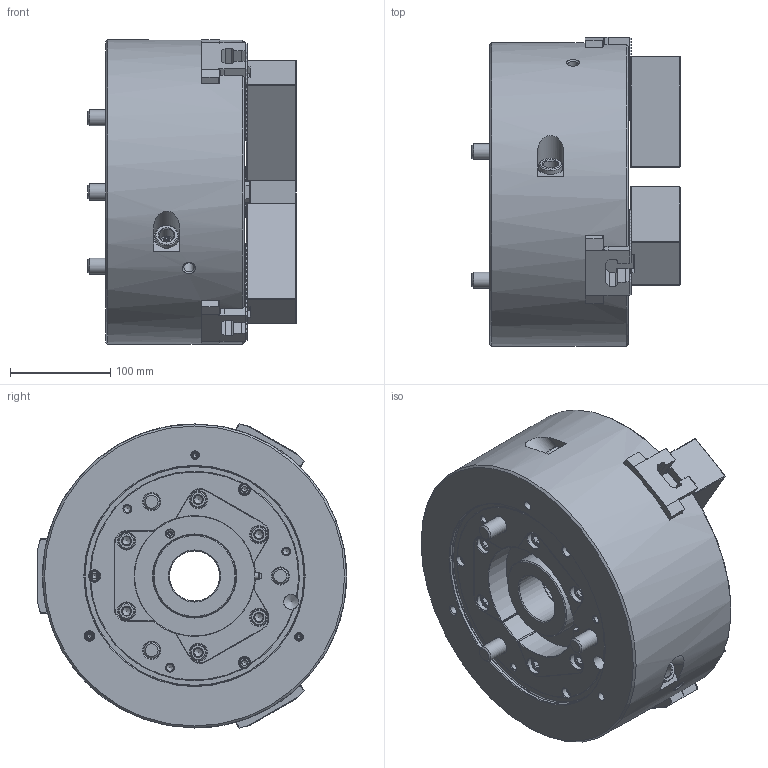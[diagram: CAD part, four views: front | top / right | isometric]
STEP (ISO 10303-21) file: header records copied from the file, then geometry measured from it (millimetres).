
FILE_DESCRIPTION (( 'STEP AP214' ), '1' );
FILE_NAME ('DT1_BL-212_OUTSIDE_VIEW_UC.STEP', '2024-05-08T02:28:40', ( '' ), ( '' ), 'SwSTEP 2.0', 'SolidWorks 2022', '' );
FILE_SCHEMA (( 'AUTOMOTIVE_DESIGN' ));
Length unit declared in the file: millimetre
Products named in the file (9): DT1_B-212_SOFTJAW^DT1_BL-212_ﾃﾞﾌｫﾙﾄ; DT1_BL-212_OUTSIDE_VIEW_UC; DT1_B-212_DRAWNUT^DT1_BL-212_ﾃﾞﾌｫﾙﾄ; DT1_B-212_TNUT^DT1_BL-212_ﾃﾞﾌｫﾙﾄ; DT1_B-212_M5x10^DT1_BL-212_ﾃﾞﾌｫﾙﾄ; DT1_B-212_COVER^DT1_BL-212_ﾃﾞﾌｫﾙﾄ; DT1_B-212_M16x40^DT1_BL-212_ﾃﾞﾌｫﾙﾄ; BASE^DT1_BL-212_ﾃﾞﾌｫﾙﾄ; DT1_B-212_M16x130^DT1_BL-212_ﾃﾞﾌｫﾙﾄ
Assembly tree (21 placements, depth 2):
  DT1_BL-212_OUTSIDE_VIEW_UC
    DT1_B-212_DRAWNUT^DT1_BL-212_ﾃﾞﾌｫﾙﾄ
    DT1_B-212_COVER^DT1_BL-212_ﾃﾞﾌｫﾙﾄ
    DT1_B-212_TNUT^DT1_BL-212_ﾃﾞﾌｫﾙﾄ  x3
    DT1_B-212_SOFTJAW^DT1_BL-212_ﾃﾞﾌｫﾙﾄ  x3
    BASE^DT1_BL-212_ﾃﾞﾌｫﾙﾄ
    DT1_B-212_M16x40^DT1_BL-212_ﾃﾞﾌｫﾙﾄ  x6
    DT1_B-212_M16x130^DT1_BL-212_ﾃﾞﾌｫﾙﾄ  x3
    DT1_B-212_M5x10^DT1_BL-212_ﾃﾞﾌｫﾙﾄ  x3
Bounding box: 208 x 309.05 x 304.29 mm (x, y, z)
Volume: 9922054.9 mm3; surface area: 733805.1 mm2
Topology: 21 solids, 33 shells, 4101 faces, 11496 edges, 7553 vertices
Faces by surface type: plane 3374, cylinder 291, cone 283, bspline 121, torus 29, sphere 3
Full cylindrical faces by diameter (mm): 2 x3, 4.2 x3, 5 x5, 5.5 x3, 6 x1, 6.8 x9, 8 x1, 8.6 x3, 9.5 x3, 10 x9, 10.2 x2, 10.22 x3, 11 x9, 14 x6, 15 x4, 16 x9, 16.27 x6, 17 x15, 23.5 x3, 24.1 x3, 24.33 x9, 25 x9, 50 x1, 63 x1, 67 x3, 76 x1, 83 x2, 83.25 x1, 90 x2, 220 x1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
Entity records: 98219 total; most frequent: CARTESIAN_POINT 25438, ORIENTED_EDGE 15598, DIRECTION 13425, EDGE_CURVE 7799, LINE 6301, VECTOR 6301, VERTEX_POINT 5246, AXIS2_PLACEMENT_3D 3562
